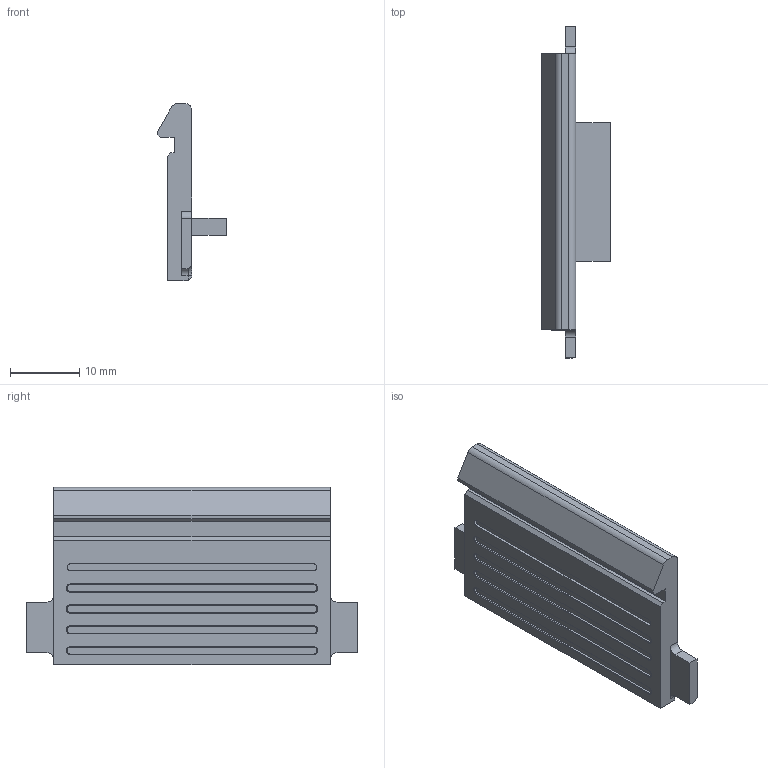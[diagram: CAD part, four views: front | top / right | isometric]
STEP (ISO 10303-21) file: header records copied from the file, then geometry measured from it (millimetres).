
FILE_DESCRIPTION (( 'STEP AP203' ), '1' );
FILE_NAME ('µç³Ø¿¨¿Û2.STEP', '2026-09-24T09:19:52', ( '' ), ( '' ), 'SwSTEP 2.0', 'SolidWorks 2016', '' );
FILE_SCHEMA (( 'CONFIG_CONTROL_DESIGN' ));
Length unit declared in the file: millimetre
Products named in the file (1): 萇喀縐諶2
Bounding box: 9.9 x 47.8 x 25.5 mm (x, y, z)
Volume: 3794.5 mm3; surface area: 3046.5 mm2
Topology: 1 solids, 1 shells, 80 faces, 194 edges, 122 vertices
Faces by surface type: plane 54, cylinder 16, cone 10
Entity records: 2381 total; most frequent: DIRECTION 398, CARTESIAN_POINT 397, ORIENTED_EDGE 388, EDGE_CURVE 194, VECTOR 152, LINE 152, AXIS2_PLACEMENT_3D 123, VERTEX_POINT 122
